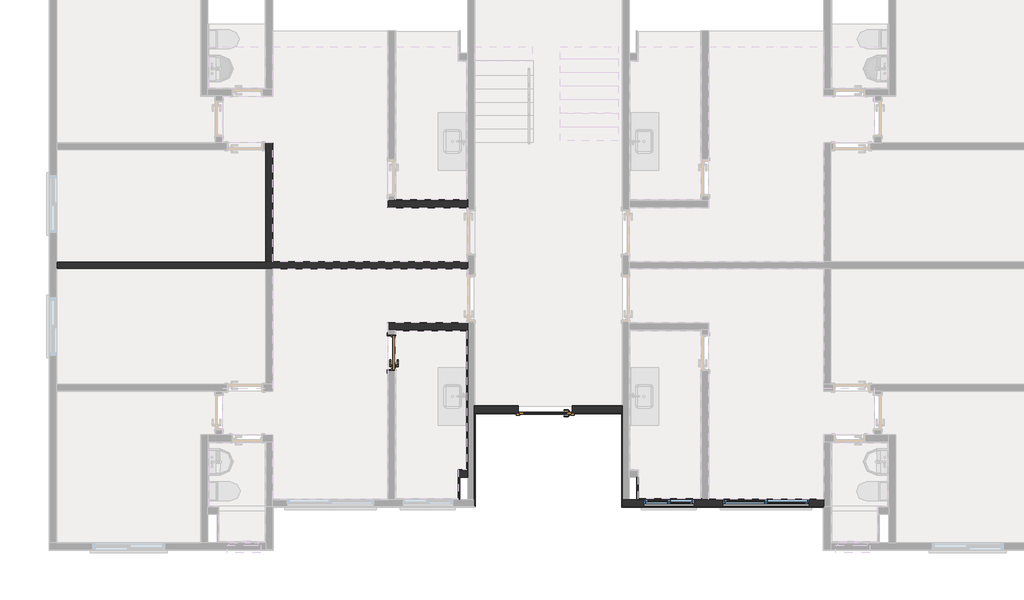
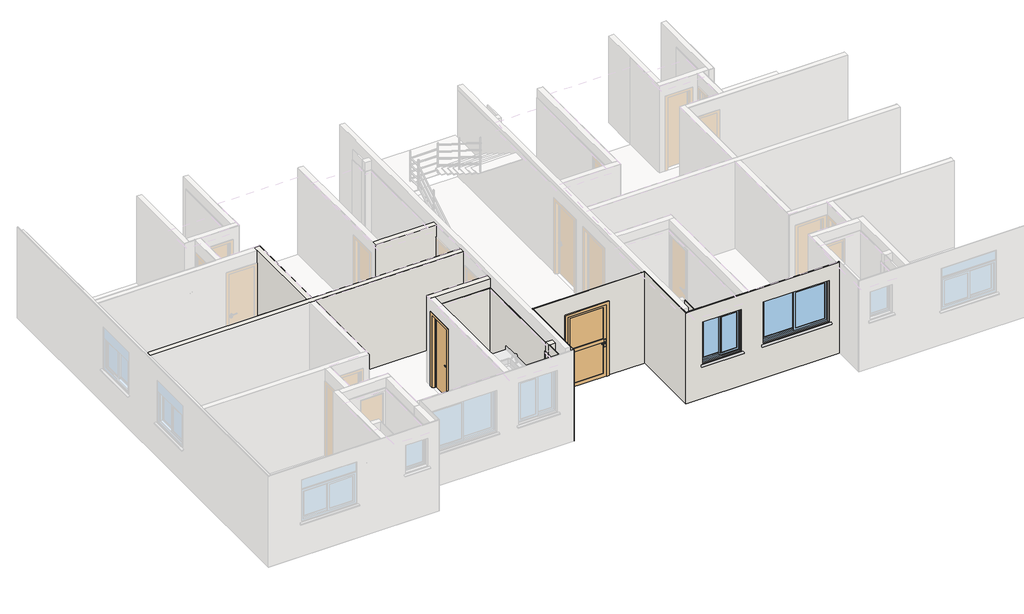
# One storey, part 3 of 11: 29 walls, 2 doors, 2 windows.
"""IFC4 building model written with IfcOpenShell, lengths in millimetres."""

from ifc_helpers import new_model, si_unit, frame, origin, origin_with_axes, place, context, project, spatial, polyline, outline, extrude, faceted_brep, transform, mapped, element, save
from components import porta_de_entrada_torre_110x210_d7ea5157, porta_de_madeira_interna_70_x_210_porta_de_madeira_interna_f307109d, window_105x120_428ac20c, window_180x120_e659ab7e

model = new_model("IFC4")

# Units and contexts
model_context = context("Model", 3, world=origin())
ifc_project = project(units=[si_unit("LENGTHUNIT", "METRE", prefix="MILLI")], contexts=[model_context])

# Site, building, storey
site = spatial("IfcSite", under=ifc_project)
building = spatial("IfcBuilding", under=site)
storey = spatial("IfcBuildingStorey", under=building, Name="Térreo", Elevation=0.0)

# Doors
placement = place(None, origin())
porta_de_entrada_torre_110x210_shape = porta_de_entrada_torre_110x210_d7ea5157(model_context)
element("IfcDoor", 1, ObjectType="Porta de Entrada Torre : 110x210", at=placement, inside=storey, context=model_context, shape_type="MappedRepresentation", body=[
    mapped(porta_de_entrada_torre_110x210_shape, transform((10345.9990083, 3322.00443, 0.0), x_axis=(-1.0, 0.0, 0.0), y_axis=(0.0, -1.0, 0.0), z_axis=(0.0, 0.0, 1.0))),
])
porta_de_madeira_interna_70_x_210_porta_de_madeira_interna_shape = porta_de_madeira_interna_70_x_210_porta_de_madeira_interna_f307109d(model_context)
element("IfcDoor", 2, ObjectType="Porta de Madeira Interna 70 x 210 : Porta de Madeira Interna 70 x 210", at=placement, inside=storey, context=model_context, shape_type="MappedRepresentation", body=[
    mapped(porta_de_madeira_interna_70_x_210_porta_de_madeira_interna_shape, transform((7146.1736861, 4578.6603139, 0.0), x_axis=(0.0, 1.0, 0.0), y_axis=(-1.0, 0.0, 0.0), z_axis=(0.0, 0.0, 1.0))),
])

# Walls
element("IfcWall", 3, ObjectType="Alvenaria Estrutural", at=placement, inside=storey, context=model_context, shape_type="Brep", body=[
    faceted_brep([(169.9991825, 6330.0103139, 0.0), (175.9991825, 6330.0103139, 0.0), (4523.9996867, 6330.0103139, 0.0), (4529.9996867, 6330.0103139, 0.0), (4669.9996867, 6330.0103139, 0.0), (4675.9996867, 6330.0103139, 0.0), (8723.9963008, 6330.0103139, 0.0), (8729.9963008, 6330.0103139, 0.0), (8729.9963008, 6330.0103139, 2510.0), (8723.9963008, 6330.0103139, 2510.0), (4675.9996867, 6330.0103139, 2510.0), (4669.9996867, 6330.0103139, 2510.0), (4529.9996867, 6330.0103139, 2510.0), (4523.9996867, 6330.0103139, 2510.0), (175.9991825, 6330.0103139, 2510.0), (169.9991825, 6330.0103139, 2510.0), (169.9991825, 6470.0103139, 0.0), (169.9991825, 6470.0103139, 2510.0), (175.9991825, 6470.0103139, 2510.0), (4523.9996867, 6470.0103139, 2510.0), (4529.9996867, 6470.0103139, 2510.0), (4669.9996867, 6470.0103139, 2510.0), (4675.9996867, 6470.0103139, 2510.0), (8723.9963008, 6470.0103139, 2510.0), (8729.9963008, 6470.0103139, 2510.0), (8729.9963008, 6470.0103139, 0.0), (8723.9963008, 6470.0103139, 0.0), (4675.9996867, 6470.0103139, 0.0), (4669.9996867, 6470.0103139, 0.0), (4529.9996867, 6470.0103139, 0.0), (4523.9996867, 6470.0103139, 0.0), (175.9991825, 6470.0103139, 0.0)], [[[0, 1, 2, 3, 4, 5, 6, 7, 8, 9, 10, 11, 12, 13, 14, 15]], [[16, 17, 18, 19, 20, 21, 22, 23, 24, 25, 26, 27, 28, 29, 30, 31]], [[1, 0, 16, 31, 30, 29, 28, 27, 26, 25, 7, 6, 5, 4, 3, 2]], [[9, 8, 24, 23, 22, 21, 20, 19, 18, 17, 15, 14, 13, 12, 11, 10]], [[8, 7, 25, 24]], [[0, 15, 17, 16]]]),
    faceted_brep([(175.9991825, 6330.0103139, 0.0), (169.9991825, 6330.0103139, 0.0), (169.9991825, 6470.0103139, 0.0), (175.9991825, 6470.0103139, 0.0), (4523.9996867, 6470.0103139, 0.0), (4529.9996867, 6470.0103139, 0.0), (4669.9996867, 6470.0103139, 0.0), (4675.9996867, 6470.0103139, 0.0), (8723.9963008, 6470.0103139, 0.0), (8729.9963008, 6470.0103139, 0.0), (8729.9963008, 6330.0103139, 0.0), (8723.9963008, 6330.0103139, 0.0), (4675.9996867, 6330.0103139, 0.0), (4669.9996867, 6330.0103139, 0.0), (4529.9996867, 6330.0103139, 0.0), (4523.9996867, 6330.0103139, 0.0), (169.9991825, 6470.0103139, 2510.0), (175.9991825, 6470.0103139, 2510.0), (4523.9996867, 6470.0103139, 2510.0), (4529.9996867, 6470.0103139, 2510.0), (4669.9996867, 6470.0103139, 2510.0), (4675.9996867, 6470.0103139, 2510.0), (8723.9963008, 6470.0103139, 2510.0), (8729.9963008, 6470.0103139, 2510.0), (8729.9963008, 6330.0103139, 2510.0), (8723.9963008, 6330.0103139, 2510.0), (4675.9996867, 6330.0103139, 2510.0), (4669.9996867, 6330.0103139, 2510.0), (4529.9996867, 6330.0103139, 2510.0), (4523.9996867, 6330.0103139, 2510.0), (175.9991825, 6330.0103139, 2510.0), (169.9991825, 6330.0103139, 2510.0)], [[[0, 1, 2, 3, 4, 5, 6, 7, 8, 9, 10, 11, 12, 13, 14, 15]], [[2, 16, 17, 18, 19, 20, 21, 22, 23, 9, 8, 7, 6, 5, 4, 3]], [[1, 0, 15, 14, 13, 12, 11, 10, 24, 25, 26, 27, 28, 29, 30, 31]], [[25, 24, 23, 22, 21, 20, 19, 18, 17, 16, 31, 30, 29, 28, 27, 26]], [[24, 10, 9, 23]], [[1, 31, 16, 2]]]),
])
element("IfcWall", 4, ObjectType="Alvenaria Estrutural", at=placement, inside=storey, context=model_context, shape_type="Brep", body=[
    faceted_brep([(4669.9996867, 6470.0103139, 0.0), (4669.9996867, 6476.0103139, 0.0), (4669.9996867, 8950.0244803, 0.0), (4669.9996867, 8950.0244803, 2510.0), (4669.9996867, 6476.0103139, 2510.0), (4669.9996867, 6470.0103139, 2510.0), (4529.9996867, 6470.0103139, 0.0), (4529.9996867, 6470.0103139, 2510.0), (4529.9996867, 6476.0103139, 2510.0), (4529.9996867, 8804.0244803, 2510.0), (4529.9996867, 8810.0244803, 2510.0), (4529.9996867, 8950.0244803, 2510.0), (4529.9996867, 8950.0244803, 0.0), (4529.9996867, 8810.0244803, 0.0), (4529.9996867, 8804.0244803, 0.0), (4529.9996867, 6476.0103139, 0.0)], [[[0, 1, 2, 3, 4, 5]], [[6, 7, 8, 9, 10, 11, 12, 13, 14, 15]], [[1, 0, 6, 15, 14, 13, 12, 2]], [[4, 3, 11, 10, 9, 8, 7, 5]], [[3, 2, 12, 11]], [[0, 5, 7, 6]]]),
    faceted_brep([(4669.9996867, 6476.0103139, 0.0), (4669.9996867, 6470.0103139, 0.0), (4529.9996867, 6470.0103139, 0.0), (4529.9996867, 6476.0103139, 0.0), (4529.9996867, 8804.0244803, 0.0), (4529.9996867, 8810.0244803, 0.0), (4529.9996867, 8950.0244803, 0.0), (4669.9996867, 8950.0244803, 0.0), (4669.9996867, 6476.0103139, 2510.0), (4669.9996867, 8950.0244803, 2510.0), (4529.9996867, 8950.0244803, 2510.0), (4529.9996867, 8810.0244803, 2510.0), (4529.9996867, 8804.0244803, 2510.0), (4529.9996867, 6476.0103139, 2510.0), (4529.9996867, 6470.0103139, 2510.0), (4669.9996867, 6470.0103139, 2510.0)], [[[0, 1, 2, 3, 4, 5, 6, 7]], [[8, 9, 10, 11, 12, 13, 14, 15]], [[1, 0, 7, 9, 8, 15]], [[2, 14, 13, 12, 11, 10, 6, 5, 4, 3]], [[9, 7, 6, 10]], [[1, 15, 14, 2]]]),
])
element("IfcWall", 5, ObjectType="Alvenaria Estrutural", at=placement, inside=storey, context=model_context, shape_type="Brep", body=[
    faceted_brep([(8869.9953936, 3330.00443, 2510.0), (8869.9953936, 3330.00443, 0.0), (8886.0600094, 3330.00443, 0.0), (9745.9990083, 3330.00443, 0.0), (9785.9990083, 3330.00443, 0.0), (9785.9990083, 3330.00443, 2110.0), (10905.9990083, 3330.00443, 2110.0), (10905.9990083, 3330.00443, 0.0), (10945.9990083, 3330.00443, 0.0), (11933.9956991, 3330.00443, 0.0), (11944.9956991, 3330.00443, 0.0), (11944.9956991, 3330.00443, 2510.0), (8869.9953936, 3470.00443, 0.0), (8869.9953936, 3470.00443, 2510.0), (8875.9991022, 3470.00443, 2510.0), (11943.9984066, 3470.00443, 2510.0), (11944.9956991, 3470.00443, 2510.0), (11944.9956991, 3470.00443, 0.0), (11943.9984066, 3470.00443, 0.0), (10905.9990083, 3470.00443, 0.0), (10905.9990083, 3470.00443, 2110.0), (9785.9990083, 3470.00443, 2110.0), (9785.9990083, 3470.00443, 0.0), (8875.9991022, 3470.00443, 0.0)], [[[0, 1, 2, 3, 4, 5, 6, 7, 8, 9, 10, 11]], [[12, 13, 14, 15, 16, 17, 18, 19, 20, 21, 22, 23]], [[2, 1, 12, 23, 22, 4, 3]], [[1, 0, 13, 12]], [[0, 11, 16, 15, 14, 13]], [[6, 5, 21, 20]], [[7, 6, 20, 19]], [[5, 4, 22, 21]], [[8, 7, 19, 18, 17, 10, 9]], [[11, 10, 17, 16]]]),
    faceted_brep([(8886.0600094, 3330.00443, 0.0), (8869.9953936, 3330.00443, 0.0), (8869.9953936, 3470.00443, 0.0), (8875.9991022, 3470.00443, 0.0), (9785.9990083, 3470.00443, 0.0), (9785.9990083, 3330.00443, 0.0), (9745.9990083, 3330.00443, 0.0), (8869.9953936, 3330.00443, 2510.0), (8869.9953936, 3470.00443, 2510.0), (11944.9956991, 3330.00443, 2510.0), (11944.9956991, 3470.00443, 2510.0), (11943.9984066, 3470.00443, 2510.0), (8875.9991022, 3470.00443, 2510.0), (10945.9990083, 3330.00443, 0.0), (10905.9990083, 3330.00443, 0.0), (10905.9990083, 3470.00443, 0.0), (11943.9984066, 3470.00443, 0.0), (11944.9956991, 3470.00443, 0.0), (11944.9956991, 3330.00443, 0.0), (11933.9956991, 3330.00443, 0.0), (9785.9990083, 3330.00443, 2110.0), (10905.9990083, 3330.00443, 2110.0), (10905.9990083, 3470.00443, 2110.0), (9785.9990083, 3470.00443, 2110.0)], [[[0, 1, 2, 3, 4, 5, 6]], [[1, 7, 8, 2]], [[7, 9, 10, 11, 12, 8]], [[13, 14, 15, 16, 17, 18, 19]], [[7, 1, 0, 6, 5, 20, 21, 14, 13, 19, 18, 9]], [[2, 8, 12, 11, 10, 17, 16, 15, 22, 23, 4, 3]], [[9, 18, 17, 10]], [[21, 20, 23, 22]], [[14, 21, 22, 15]], [[20, 5, 4, 23]]]),
])
element("IfcWall", 6, ObjectType="Alvenaria Estrutural", at=placement, inside=storey, context=model_context, shape_type="Brep", body=[
    faceted_brep([(8729.9963008, 2125.0132549, 0.0), (8709.9963008, 2125.0132549, 0.0), (8546.99631, 2125.0132549, 0.0), (8546.99631, 2125.0132549, 2510.0), (8729.9963008, 2125.0132549, 2510.0), (8729.9963008, 2125.0132549, 2250.0), (8729.9963008, 1985.0132549, 0.0), (8729.9963008, 1985.0132549, 2510.0), (8569.99631, 1985.0132549, 2510.0), (8546.99631, 1985.0132549, 2510.0), (8546.99631, 1985.0132549, 0.0), (8569.99631, 1985.0132549, 0.0)], [[[0, 1, 2, 3, 4, 5]], [[6, 7, 8, 9, 10, 11]], [[1, 0, 6, 11, 10, 2]], [[4, 3, 9, 8, 7]], [[3, 2, 10, 9]], [[5, 4, 7, 6, 0]]]),
    faceted_brep([(8729.9963008, 2125.0132549, 0.0), (8709.9963008, 2125.0132549, 0.0), (8546.99631, 2125.0132549, 0.0), (8546.99631, 2125.0132549, 2510.0), (8729.9963008, 2125.0132549, 2510.0), (8729.9963008, 2125.0132549, 2250.0), (8729.9963008, 1985.0132549, 0.0), (8569.99631, 1985.0132549, 0.0), (8546.99631, 1985.0132549, 0.0), (8546.99631, 1985.0132549, 2510.0), (8569.99631, 1985.0132549, 2510.0), (8729.9963008, 1985.0132549, 2510.0)], [[[0, 1, 2, 3, 4, 5]], [[1, 0, 6, 7, 8, 2]], [[4, 3, 9, 10, 11]], [[6, 11, 10, 9, 8, 7]], [[3, 2, 8, 9]], [[5, 4, 11, 6, 0]]]),
])
element("IfcWall", 7, ObjectType="Alvenaria Estrutural", at=placement, inside=storey, context=model_context, shape_type="Brep", body=[
    faceted_brep([(8729.9963008, 5193.6603139, 0.0), (8723.9963008, 5193.6603139, 0.0), (7072.9986861, 5193.6603139, 0.0), (7072.9986861, 5193.6603139, 2510.0), (8723.9963008, 5193.6603139, 2510.0), (8729.9963008, 5193.6603139, 2510.0), (8729.9963008, 5053.6603139, 0.0), (8729.9963008, 5053.6603139, 2250.0), (8729.9963008, 5053.6603139, 2510.0), (7212.9986861, 5053.6603139, 2510.0), (7072.9986861, 5053.6603139, 2510.0), (7072.9986861, 5053.6603139, 0.0), (7212.9986861, 5053.6603139, 0.0), (7233.0017324, 5053.6603139, 0.0), (8709.9963008, 5053.6603139, 0.0)], [[[0, 1, 2, 3, 4, 5]], [[6, 7, 8, 9, 10, 11, 12, 13, 14]], [[1, 0, 6, 14, 13, 12, 11, 2]], [[4, 3, 10, 9, 8, 5]], [[3, 2, 11, 10]], [[0, 5, 8, 7, 6]]]),
])
element("IfcWall", 8, ObjectType="Alvenaria Estrutural", at=placement, inside=storey, context=model_context, shape_type="Brep", body=[
    faceted_brep([(8729.9963008, 7746.3603139, 0.0), (8709.9963008, 7746.3603139, 0.0), (7233.0017324, 7746.3603139, 0.0), (7212.9986861, 7746.3603139, 0.0), (7072.9986861, 7746.3603139, 0.0), (7072.9986861, 7746.3603139, 2510.0), (7212.9986861, 7746.3603139, 2510.0), (8729.9963008, 7746.3603139, 2510.0), (8729.9963008, 7746.3603139, 2250.0), (8729.9963008, 7606.3603139, 0.0), (8729.9963008, 7606.3603139, 2510.0), (8723.9963008, 7606.3603139, 2510.0), (7072.9986861, 7606.3603139, 2510.0), (7072.9986861, 7606.3603139, 0.0), (8723.9963008, 7606.3603139, 0.0)], [[[0, 1, 2, 3, 4, 5, 6, 7, 8]], [[9, 10, 11, 12, 13, 14]], [[1, 0, 9, 14, 13, 4, 3, 2]], [[6, 5, 12, 11, 10, 7]], [[5, 4, 13, 12]], [[8, 7, 10, 9, 0]]]),
])
element("IfcWall", 9, ObjectType="Alvenaria Estrutural", at=placement, inside=storey, context=model_context, shape_type="Brep", body=[
    faceted_brep([(16149.9956991, 1519.9983274, 10.0), (16143.9956991, 1519.9983274, 10.0), (11949.9956991, 1519.9983274, 10.0), (11949.9956991, 1519.9983274, 2520.0), (16149.9956991, 1519.9983274, 2520.0), (16149.9956991, 1519.9983274, 2510.0), (12394.9954974, 1519.9983274, 2200.0), (12394.9954974, 1519.9983274, 1000.0), (13444.9954974, 1519.9983274, 1000.0), (13444.9954974, 1519.9983274, 2200.0), (14044.9954574, 1519.9983274, 2200.0), (14044.9954574, 1519.9983274, 1000.0), (15844.9954574, 1519.9983274, 1000.0), (15844.9954574, 1519.9983274, 2200.0), (11949.9956991, 1379.9983274, 10.0), (16133.9960602, 1379.9983274, 10.0), (16149.9956991, 1379.9983274, 10.0), (16149.9956991, 1379.9983274, 2520.0), (11949.9956991, 1379.9983274, 2520.0), (12394.9954974, 1379.9983274, 1000.0), (12394.9954974, 1379.9983274, 2200.0), (13444.9954974, 1379.9983274, 2200.0), (13444.9954974, 1379.9983274, 1000.0), (13494.9954974, 1379.9983274, 1000.0), (13494.9954974, 1379.9983274, 951.3083694), (12344.9954974, 1379.9983274, 951.3083694), (12344.9954974, 1379.9983274, 1000.0), (15894.9954574, 1379.9983274, 1000.0), (15894.9954574, 1379.9983274, 951.3083694), (13994.9954574, 1379.9983274, 951.3083694), (13994.9954574, 1379.9983274, 1000.0), (14044.9954574, 1379.9983274, 1000.0), (14044.9954574, 1379.9983274, 2200.0), (15844.9954574, 1379.9983274, 2200.0), (15844.9954574, 1379.9983274, 1000.0), (16149.9956991, 1449.9983274, 10.0), (12344.9954974, 1477.4983274, 972.0326341), (12344.9954974, 1477.4983274, 1000.0), (13494.9954974, 1477.4983274, 1000.0), (13494.9954974, 1477.4983274, 972.0326341), (13444.9954974, 1477.4983274, 1000.0), (12394.9954974, 1477.4983274, 1000.0), (15894.9954574, 1477.4983274, 1000.0), (15894.9954574, 1477.4983274, 972.0326341), (13994.9954574, 1477.4983274, 972.0326341), (13994.9954574, 1477.4983274, 1000.0), (15844.9954574, 1477.4983274, 1000.0), (14044.9954574, 1477.4983274, 1000.0)], [[[0, 1, 2, 3, 4, 5], [6, 7, 8, 9], [10, 11, 12, 13]], [[14, 15, 16, 17, 18], [19, 20, 21, 22, 23, 24, 25, 26], [27, 28, 29, 30, 31, 32, 33, 34]], [[1, 0, 35, 16, 15, 14, 2]], [[3, 2, 14, 18]], [[4, 3, 18, 17]], [[5, 4, 17, 16, 35, 0]], [[26, 25, 36, 37]], [[24, 23, 38, 39]], [[37, 36, 39, 38, 40, 41]], [[19, 26, 37, 41]], [[25, 24, 39, 36]], [[7, 6, 20, 19, 41]], [[6, 9, 21, 20]], [[9, 8, 40, 22, 21]], [[8, 7, 41, 40]], [[28, 27, 42, 43]], [[30, 29, 44, 45]], [[43, 42, 46, 47, 45, 44]], [[27, 34, 46, 42]], [[29, 28, 43, 44]], [[11, 10, 32, 31, 47]], [[10, 13, 33, 32]], [[13, 12, 46, 34, 33]], [[12, 11, 47, 46]], [[31, 30, 45, 47]], [[23, 22, 40, 38]]]),
    faceted_brep([(11949.9956991, 1519.9983274, 2520.0), (11949.9956991, 1519.9983274, 10.0), (11949.9956991, 1379.9983274, 10.0), (11949.9956991, 1379.9983274, 2520.0), (16149.9956991, 1519.9983274, 2520.0), (16149.9956991, 1379.9983274, 2520.0), (16149.9956991, 1519.9983274, 2510.0), (16149.9956991, 1379.9983274, 10.0), (16149.9956991, 1449.9983274, 10.0), (16149.9956991, 1519.9983274, 10.0), (12344.9954974, 1379.9983274, 1000.0), (12344.9954974, 1379.9983274, 951.3083694), (12344.9954974, 1477.4983274, 972.0326341), (12344.9954974, 1477.4983274, 1000.0), (13494.9954974, 1379.9983274, 951.3083694), (13494.9954974, 1379.9983274, 1000.0), (13494.9954974, 1477.4983274, 1000.0), (13494.9954974, 1477.4983274, 972.0326341), (13444.9954974, 1477.4983274, 1000.0), (12394.9954974, 1477.4983274, 1000.0), (12394.9954974, 1379.9983274, 1000.0), (12394.9954974, 1519.9983274, 1000.0), (12394.9954974, 1519.9983274, 2200.0), (12394.9954974, 1379.9983274, 2200.0), (13444.9954974, 1519.9983274, 2200.0), (13444.9954974, 1379.9983274, 2200.0), (13444.9954974, 1519.9983274, 1000.0), (13444.9954974, 1379.9983274, 1000.0), (16133.9960602, 1379.9983274, 10.0), (15894.9954574, 1379.9983274, 1000.0), (15894.9954574, 1379.9983274, 951.3083694), (13994.9954574, 1379.9983274, 951.3083694), (13994.9954574, 1379.9983274, 1000.0), (14044.9954574, 1379.9983274, 1000.0), (14044.9954574, 1379.9983274, 2200.0), (15844.9954574, 1379.9983274, 2200.0), (15844.9954574, 1379.9983274, 1000.0), (16143.9956991, 1519.9983274, 10.0), (14044.9954574, 1519.9983274, 2200.0), (14044.9954574, 1519.9983274, 1000.0), (15844.9954574, 1519.9983274, 1000.0), (15844.9954574, 1519.9983274, 2200.0), (15894.9954574, 1477.4983274, 1000.0), (15894.9954574, 1477.4983274, 972.0326341), (13994.9954574, 1477.4983274, 972.0326341), (13994.9954574, 1477.4983274, 1000.0), (15844.9954574, 1477.4983274, 1000.0), (14044.9954574, 1477.4983274, 1000.0)], [[[0, 1, 2, 3]], [[4, 0, 3, 5]], [[6, 4, 5, 7, 8, 9]], [[10, 11, 12, 13]], [[14, 15, 16, 17]], [[13, 12, 17, 16, 18, 19]], [[20, 10, 13, 19]], [[11, 14, 17, 12]], [[21, 22, 23, 20, 19]], [[22, 24, 25, 23]], [[24, 26, 18, 27, 25]], [[26, 21, 19, 18]], [[15, 27, 18, 16]], [[7, 5, 3, 2, 28], [29, 30, 31, 32, 33, 34, 35, 36], [20, 23, 25, 27, 15, 14, 11, 10]], [[1, 0, 4, 6, 9, 37], [22, 21, 26, 24], [38, 39, 40, 41]], [[30, 29, 42, 43]], [[32, 31, 44, 45]], [[43, 42, 46, 47, 45, 44]], [[29, 36, 46, 42]], [[31, 30, 43, 44]], [[39, 38, 34, 33, 47]], [[38, 41, 35, 34]], [[41, 40, 46, 36, 35]], [[40, 39, 47, 46]], [[33, 32, 45, 47]], [[37, 9, 8, 7, 28, 2, 1]]]),
])
element("IfcWall", 10, ObjectType="Azulejo", at=placement, inside=storey, context=model_context, shape_type="SweptSolid", body=[
    extrude(outline(polyline([(8729.9963008, 5033.6603139), (7212.9986861, 5033.6603139), (7212.9986861, 5043.6603139), (8729.9963008, 5043.6603139), (8729.9963008, 5033.6603139)])), origin_with_axes(), (0.0, 0.0, 1.0), 2250.0),
    extrude(outline(polyline([(7212.9986861, 5053.6603139), (8729.9963008, 5053.6603139), (8729.9963008, 5043.6603139), (7212.9986861, 5043.6603139), (7212.9986861, 5053.6603139)])), origin_with_axes(), (0.0, 0.0, 1.0), 2250.0),
])
element("IfcWall", 11, ObjectType="Azulejo", at=placement, inside=storey, context=model_context, shape_type="SweptSolid", body=[
    extrude(outline(polyline([(8709.9963008, 2125.0132549), (8709.9963008, 5053.6603139), (8719.9963008, 5053.6603139), (8719.9963008, 2125.0132549), (8709.9963008, 2125.0132549)])), origin_with_axes(), (0.0, 0.0, 1.0), 2250.0),
    extrude(outline(polyline([(8729.9963008, 5053.6603139), (8729.9963008, 2125.0132549), (8719.9963008, 2125.0132549), (8719.9963008, 5053.6603139), (8729.9963008, 5053.6603139)])), origin_with_axes(), (0.0, 0.0, 1.0), 2250.0),
])
element("IfcWall", 12, ObjectType="Azulejo", at=placement, inside=storey, context=model_context, shape_type="SolidModel", body=[
    extrude(outline(polyline([(8536.99631, 2145.0132549), (8729.9963008, 2145.0132549), (8729.9963008, 2135.0132549), (8536.99631, 2135.0132549), (8536.99631, 2145.0132549)])), origin_with_axes(), (0.0, 0.0, 1.0), 2250.0),
    faceted_brep([(8729.9963008, 2135.0132549, 0.0), (8546.99631, 2135.0132549, 0.0), (8546.99631, 2135.0132549, 2250.0), (8729.9963008, 2135.0132549, 2250.0), (8546.99631, 2125.0132549, 0.0), (8556.99631, 2125.0132549, 0.0), (8729.9963008, 2125.0132549, 0.0), (8729.9963008, 2125.0132549, 2250.0), (8556.99631, 2125.0132549, 2250.0), (8546.99631, 2125.0132549, 2250.0)], [[[0, 1, 2, 3]], [[4, 5, 6, 7, 8, 9]], [[5, 4, 1, 0, 6]], [[8, 7, 3, 2, 9]], [[7, 6, 0, 3]], [[4, 9, 2, 1]]]),
])
element("IfcWall", 13, ObjectType="Azulejo", at=placement, inside=storey, context=model_context, shape_type="SweptSolid", body=[
    extrude(outline(polyline([(8536.99631, 1985.0132549), (8536.99631, 2135.0132549), (8546.99631, 2135.0132549), (8546.99631, 1985.0132549), (8536.99631, 1985.0132549)])), origin_with_axes(), (0.0, 0.0, 1.0), 2250.0),
    extrude(outline(polyline([(8556.99631, 2125.0132549), (8556.99631, 1985.0132549), (8546.99631, 1985.0132549), (8546.99631, 2125.0132549), (8556.99631, 2125.0132549)])), origin_with_axes(), (0.0, 0.0, 1.0), 2250.0),
])
element("IfcWall", 14, ObjectType="Azulejo", at=placement, inside=storey, context=model_context, shape_type="SweptSolid", body=[
    extrude(outline(polyline([(7212.9986861, 7766.3603139), (8729.9963008, 7766.3603139), (8729.9963008, 7756.3603139), (7212.9986861, 7756.3603139), (7212.9986861, 7766.3603139)])), origin_with_axes(), (0.0, 0.0, 1.0), 2250.0),
    extrude(outline(polyline([(8729.9963008, 7746.3603139), (7212.9986861, 7746.3603139), (7212.9986861, 7756.3603139), (8729.9963008, 7756.3603139), (8729.9963008, 7746.3603139)])), origin_with_axes(), (0.0, 0.0, 1.0), 2250.0),
])
element("IfcWall", 15, ObjectType="Azulejo", at=placement, inside=storey, context=model_context, shape_type="SolidModel", body=[
    faceted_brep([(12282.9983974, 1539.9983274, 0.0), (13606.9960213, 1539.9983274, 0.0), (13606.9960213, 1529.9983274, 0.0), (12272.9983974, 1529.9983274, 0.0), (12272.9983974, 1539.9983274, 0.0), (12282.9983974, 1539.9983274, 2250.0), (12272.9983974, 1539.9983274, 2250.0), (12272.9983974, 1529.9983274, 2250.0), (13606.9960213, 1529.9983274, 2250.0), (13606.9960213, 1539.9983274, 2250.0), (12394.9954974, 1539.9983274, 1000.0), (12394.9954974, 1539.9983274, 2200.0), (12394.9954974, 1529.9983274, 2200.0), (12394.9954974, 1529.9983274, 1000.0), (13444.9954974, 1539.9983274, 2200.0), (13444.9954974, 1529.9983274, 2200.0), (13444.9954974, 1539.9983274, 1000.0), (13444.9954974, 1529.9983274, 1000.0)], [[[0, 1, 2, 3, 4]], [[5, 6, 7, 8, 9]], [[10, 11, 12, 13]], [[11, 14, 15, 12]], [[14, 16, 17, 15]], [[16, 10, 13, 17]], [[1, 9, 8, 2]], [[6, 4, 3, 7]], [[3, 2, 8, 7], [13, 12, 15, 17]], [[1, 0, 4, 6, 5, 9], [10, 16, 14, 11]]]),
    extrude(outline(polyline([(0.0, 13606.9960213), (2250.0, 13606.9960213), (2250.0, 12272.9983974), (0.0, 12272.9983974), (0.0, 13606.9960213)]), holes=[polyline([(1000.0, 12394.9954974), (2200.0, 12394.9954974), (2200.0, 13444.9954974), (1000.0, 13444.9954974), (1000.0, 12394.9954974)])]), frame((0.0, 1519.9983274, 0.0), z_axis=(0.0, 1.0, 0.0), x_axis=(0.0, 0.0, 1.0)), (0.0, 0.0, 1.0), 10.0),
])
element("IfcWall", 16, ObjectType="Azulejo - Shaft", at=placement, inside=storey, context=model_context, shape_type="SweptSolid", body=[
    extrude(outline(polyline([(8546.99631, 1985.0132549), (8546.99631, 1539.9983274), (8536.99631, 1539.9983274), (8536.99631, 1985.0132549), (8546.99631, 1985.0132549)])), origin_with_axes(), (0.0, 0.0, 1.0), 2250.0),
])
element("IfcWall", 17, ObjectType="Azulejo - Shaft", at=placement, inside=storey, context=model_context, shape_type="SweptSolid", body=[
    extrude(outline(polyline([(12282.9983974, 1985.0132549), (12282.9983974, 1539.9983274), (12272.9983974, 1539.9983274), (12272.9983974, 1985.0132549), (12282.9983974, 1985.0132549)])), origin_with_axes(), (0.0, 0.0, 1.0), 2250.0),
])
element("IfcWall", 18, ObjectType="Gesso Liso + Pintura", at=placement, inside=storey, context=model_context, shape_type="SweptSolid", body=[
    extrude(outline(polyline([(4523.9996867, 6470.0103139), (4523.9996867, 8810.0244803), (4524.9996867, 8810.0244803), (4524.9996867, 6470.0103139), (4523.9996867, 6470.0103139)])), origin_with_axes(), (0.0, 0.0, 1.0), 2510.0),
    extrude(outline(polyline([(4529.9996867, 8810.0244803), (4529.9996867, 6470.0103139), (4524.9996867, 6470.0103139), (4524.9996867, 8810.0244803), (4529.9996867, 8810.0244803)])), origin_with_axes(), (0.0, 0.0, 1.0), 2510.0),
])
element("IfcWall", 19, ObjectType="Gesso Liso + Pintura", at=placement, inside=storey, context=model_context, shape_type="SweptSolid", body=[
    extrude(outline(polyline([(8729.9963008, 6324.0103139), (4669.9996867, 6324.0103139), (4669.9996867, 6325.0103139), (8729.9963008, 6325.0103139), (8729.9963008, 6324.0103139)])), origin_with_axes(), (0.0, 0.0, 1.0), 2510.0),
    extrude(outline(polyline([(4669.9996867, 6330.0103139), (8729.9963008, 6330.0103139), (8729.9963008, 6325.0103139), (4669.9996867, 6325.0103139), (4669.9996867, 6330.0103139)])), origin_with_axes(), (0.0, 0.0, 1.0), 2510.0),
])
element("IfcWall", 20, ObjectType="Gesso Liso + Pintura", at=placement, inside=storey, context=model_context, shape_type="SolidModel", body=[
    extrude(outline(polyline([(7066.9986861, 5199.6603139), (8723.9963008, 5199.6603139), (8723.9963008, 5198.6603139), (7066.9986861, 5198.6603139), (7066.9986861, 5199.6603139)])), origin_with_axes(), (0.0, 0.0, 1.0), 2510.0),
    faceted_brep([(8724.9963008, 5198.6603139, 0.0), (7067.9986861, 5198.6603139, 0.0), (7067.9986861, 5198.6603139, 2510.0), (8724.9963008, 5198.6603139, 2510.0), (7067.9986861, 5193.6603139, 0.0), (7072.9986861, 5193.6603139, 0.0), (8724.9963008, 5193.6603139, 0.0), (8724.9963008, 5193.6603139, 2510.0), (7072.9986861, 5193.6603139, 2510.0), (7067.9986861, 5193.6603139, 2510.0)], [[[0, 1, 2, 3]], [[4, 5, 6, 7, 8, 9]], [[5, 4, 1, 0, 6]], [[8, 7, 3, 2, 9]], [[7, 6, 0, 3]], [[4, 9, 2, 1]]]),
])
element("IfcWall", 21, ObjectType="Gesso Liso + Pintura", at=placement, inside=storey, context=model_context, shape_type="SolidModel", body=[
    extrude(outline(polyline([(4675.9996867, 8956.0244803), (4675.9996867, 6470.0103139), (4674.9996867, 6470.0103139), (4674.9996867, 8956.0244803), (4675.9996867, 8956.0244803)])), origin_with_axes(), (0.0, 0.0, 1.0), 2510.0),
    faceted_brep([(4674.9996867, 6470.0103139, 0.0), (4674.9996867, 8955.0244803, 0.0), (4674.9996867, 8955.0244803, 2510.0), (4674.9996867, 6470.0103139, 2510.0), (4669.9996867, 8955.0244803, 0.0), (4669.9996867, 8950.0244803, 0.0), (4669.9996867, 6470.0103139, 0.0), (4669.9996867, 6470.0103139, 2510.0), (4669.9996867, 8950.0244803, 2510.0), (4669.9996867, 8955.0244803, 2510.0)], [[[0, 1, 2, 3]], [[4, 5, 6, 7, 8, 9]], [[5, 4, 1, 0, 6]], [[8, 7, 3, 2, 9]], [[7, 6, 0, 3]], [[4, 9, 2, 1]]]),
])
element("IfcWall", 22, ObjectType="Gesso Liso + Pintura", at=placement, inside=storey, context=model_context, shape_type="SweptSolid", body=[
    extrude(outline(polyline([(4669.9996867, 6476.0103139), (8729.9963008, 6476.0103139), (8729.9963008, 6475.0103139), (4669.9996867, 6475.0103139), (4669.9996867, 6476.0103139)])), origin_with_axes(), (0.0, 0.0, 1.0), 2510.0),
    extrude(outline(polyline([(8729.9963008, 6470.0103139), (4669.9996867, 6470.0103139), (4669.9996867, 6475.0103139), (8729.9963008, 6475.0103139), (8729.9963008, 6470.0103139)])), origin_with_axes(), (0.0, 0.0, 1.0), 2510.0),
])
element("IfcWall", 23, ObjectType="Gesso Liso + Pintura", at=placement, inside=storey, context=model_context, shape_type="SolidModel", body=[
    extrude(outline(polyline([(8723.9963008, 7600.3603139), (7066.9986861, 7600.3603139), (7066.9986861, 7601.3603139), (8723.9963008, 7601.3603139), (8723.9963008, 7600.3603139)])), origin_with_axes(), (0.0, 0.0, 1.0), 2510.0),
    faceted_brep([(7067.9986861, 7601.3603139, 0.0), (8724.9963008, 7601.3603139, 0.0), (8724.9963008, 7601.3603139, 2510.0), (7067.9986861, 7601.3603139, 2510.0), (7067.9986861, 7606.3603139, 0.0), (7067.9986861, 7606.3603139, 2510.0), (7072.9986861, 7606.3603139, 2510.0), (8724.9963008, 7606.3603139, 2510.0), (8724.9963008, 7606.3603139, 0.0), (7072.9986861, 7606.3603139, 0.0)], [[[0, 1, 2, 3]], [[4, 5, 6, 7, 8, 9]], [[9, 8, 1, 0, 4]], [[6, 5, 3, 2, 7]], [[8, 7, 2, 1]], [[5, 4, 0, 3]]]),
])
element("IfcWall", 24, ObjectType="Gesso Liso + Pintura", at=placement, inside=storey, context=model_context, shape_type="SolidModel", body=[
    extrude(outline(polyline([(0.0, 13746.9960213), (0.0, 16149.9956991), (2510.0, 16149.9956991), (2510.0, 13746.9960213), (0.0, 13746.9960213)]), holes=[polyline([(1000.0, 14044.9954574), (2200.0, 14044.9954574), (2200.0, 15844.9954574), (1000.0, 15844.9954574), (1000.0, 14044.9954574)])]), frame((0.0, 1524.9983274, 0.0), z_axis=(0.0, 1.0, 0.0), x_axis=(0.0, 0.0, 1.0)), (0.0, 0.0, 1.0), 1.0),
    faceted_brep([(16149.9956991, 1524.9983274, 0.0), (13746.9960213, 1524.9983274, 0.0), (13746.9960213, 1524.9983274, 2510.0), (16149.9956991, 1524.9983274, 2510.0), (14044.9954574, 1524.9983274, 2200.0), (14044.9954574, 1524.9983274, 1000.0), (15844.9954574, 1524.9983274, 1000.0), (15844.9954574, 1524.9983274, 2200.0), (13746.9960213, 1519.9983274, 0.0), (16149.9956991, 1519.9983274, 0.0), (16149.9956991, 1519.9983274, 10.0), (16149.9956991, 1519.9983274, 2510.0), (13746.9960213, 1519.9983274, 2510.0), (14044.9954574, 1519.9983274, 1000.0), (14044.9954574, 1519.9983274, 2200.0), (15844.9954574, 1519.9983274, 2200.0), (15844.9954574, 1519.9983274, 1000.0)], [[[0, 1, 2, 3], [4, 5, 6, 7]], [[8, 9, 10, 11, 12], [13, 14, 15, 16]], [[9, 8, 1, 0]], [[12, 11, 3, 2]], [[14, 13, 5, 4]], [[15, 14, 4, 7]], [[16, 15, 7, 6]], [[13, 16, 6, 5]], [[8, 12, 2, 1]], [[10, 9, 0, 3, 11]]]),
])
element("IfcWall", 25, ObjectType="Gesso Liso + Pintura", at=placement, inside=storey, context=model_context, shape_type="SweptSolid", body=[
    extrude(outline(polyline([(0.0, 10905.9990083), (0.0, 11943.9984066), (2510.0, 11943.9984066), (2510.0, 8869.9963008), (0.0, 8869.9963008), (0.0, 9785.9990083), (2110.0, 9785.9990083), (2110.0, 10905.9990083), (0.0, 10905.9990083)])), frame((0.0, 3473.9995833, 0.0), z_axis=(0.0, 1.0, 0.0), x_axis=(0.0, 0.0, 1.0)), (0.0, 0.0, 1.0), 1.0),
    extrude(outline(polyline([(0.0, 10905.9990083), (0.0, 11944.9984066), (2510.0, 11944.9984066), (2510.0, 8869.9963008), (0.0, 8869.9963008), (0.0, 9785.9990083), (2110.0, 9785.9990083), (2110.0, 10905.9990083), (0.0, 10905.9990083)])), frame((0.0, 3470.00443, 0.0), z_axis=(0.0, 1.0, 0.0), x_axis=(0.0, 0.0, 1.0)), (0.0, 0.0, 1.0), 3.9951533),
])
element("IfcWall", 26, ObjectType="Reboco + Pintura Externa", at=placement, inside=storey, context=model_context, shape_type="Brep", body=[
    faceted_brep([(8885.0600094, 1364.9983274, 0.0), (8885.0600094, 1364.9983274, 2510.0), (8885.0600094, 1364.9983274, 2630.0), (8885.0600094, 3315.00443, 2630.0), (8885.0600094, 3315.00443, 2510.0), (8885.0600094, 3315.00443, 0.0), (8886.0600094, 3314.00443, 0.0), (8886.0600094, 1364.9983274, 0.0), (8886.0600094, 3315.00443, 0.0), (8886.0600094, 3315.00443, 2510.0), (8886.0600094, 3315.00443, 2630.0), (8886.0600094, 3314.00443, 2630.0), (8886.0600094, 1364.9983274, 2630.0), (8886.0600094, 1364.9983274, 2510.0)], [[[0, 1, 2, 3, 4, 5]], [[6, 7, 0, 5, 8]], [[7, 6, 8, 9, 10, 11, 12, 13]], [[7, 13, 12, 2, 1, 0]], [[5, 4, 3, 10, 9, 8]], [[3, 2, 12, 11, 10]]]),
    faceted_brep([(8875.0600094, 3330.00443, 0.0), (8875.0600094, 1379.9983274, 0.0), (8870.0600094, 1379.9983274, 0.0), (8870.0600094, 3330.00443, 0.0), (8875.0600094, 3330.00443, 2510.0), (8870.0600094, 3330.00443, 2510.0), (8870.0600094, 3330.00443, 2630.0), (8875.0600094, 3330.00443, 2630.0), (8875.0600094, 1379.9983274, 2510.0), (8875.0600094, 1379.9983274, 2630.0), (8870.0600094, 1379.9983274, 2630.0), (8870.0600094, 1379.9983274, 2510.0)], [[[0, 1, 2, 3]], [[4, 0, 3, 5, 6, 7]], [[1, 8, 9, 10, 11, 2]], [[1, 0, 4, 7, 9, 8]], [[3, 2, 11, 10, 6, 5]], [[9, 7, 6, 10]]]),
    faceted_brep([(8885.0600094, 1374.9983274, 0.0), (8885.0600094, 3330.00443, 0.0), (8885.0600094, 3330.00443, 2510.0), (8885.0600094, 3330.00443, 2630.0), (8885.0600094, 1374.9983274, 2630.0), (8885.0600094, 1374.9983274, 2510.0), (8875.0600094, 1374.9983274, 0.0), (8875.0600094, 3330.00443, 0.0), (8875.0600094, 3330.00443, 2510.0), (8875.0600094, 3330.00443, 2630.0), (8875.0600094, 1374.9983274, 2510.0), (8875.0600094, 1374.9983274, 2630.0)], [[[0, 1, 2, 3, 4, 5]], [[1, 0, 6, 7]], [[2, 1, 7, 8, 9, 3]], [[7, 6, 10, 11, 9, 8]], [[6, 0, 5, 4, 11, 10]], [[4, 3, 9, 11]]]),
])
element("IfcWall", 27, ObjectType="Reboco + Pintura Externa", at=placement, inside=storey, context=model_context, shape_type="SweptSolid", body=[
    extrude(outline(polyline([(2630.0, 11949.9984066), (2630.0, 8886.0600094), (0.0, 8886.0600094), (0.0, 9745.9990083), (2150.0, 9745.9990083), (2150.0, 10945.9990083), (0.0, 10945.9990083), (0.0, 11949.9984066), (2630.0, 11949.9984066)])), frame((0.0, 3314.00443, 0.0), z_axis=(0.0, 1.0, 0.0), x_axis=(0.0, 0.0, 1.0)), (0.0, 0.0, 1.0), 1.0),
    extrude(outline(polyline([(0.0, 8885.0600094), (0.0, 9745.9990083), (2150.0, 9745.9990083), (2150.0, 10945.9990083), (0.0, 10945.9990083), (0.0, 11949.9984066), (2630.0, 11949.9984066), (2630.0, 8885.0600094), (0.0, 8885.0600094)])), frame((0.0, 3325.00443, 0.0), z_axis=(0.0, 1.0, 0.0), x_axis=(0.0, 0.0, 1.0)), (0.0, 0.0, 1.0), 5.0),
    extrude(outline(polyline([(0.0, 8885.0600094), (0.0, 9745.9990083), (2150.0, 9745.9990083), (2150.0, 10945.9990083), (0.0, 10945.9990083), (0.0, 11949.9984066), (2630.0, 11949.9984066), (2630.0, 8885.0600094), (0.0, 8885.0600094)])), frame((0.0, 3315.00443, 0.0), z_axis=(0.0, 1.0, 0.0), x_axis=(0.0, 0.0, 1.0)), (0.0, 0.0, 1.0), 10.0),
])
element("IfcWall", 28, ObjectType="Reboco + Pintura Externa", at=placement, inside=storey, context=model_context, shape_type="SolidModel", body=[
    extrude(outline(polyline([(0.0, 16133.9960602), (2630.0, 16133.9960602), (2630.0, 11933.9956991), (0.0, 11933.9956991), (0.0, 16133.9960602)]), holes=[polyline([(1000.0, 12394.9954974), (2200.0, 12394.9954974), (2200.0, 13444.9954974), (1000.0, 13444.9954974), (1000.0, 12394.9954974)]), polyline([(1000.0, 14044.9954574), (2200.0, 14044.9954574), (2200.0, 15844.9954574), (1000.0, 15844.9954574), (1000.0, 14044.9954574)])]), frame((0.0, 1363.9983274, 0.0), z_axis=(0.0, 1.0, 0.0), x_axis=(0.0, 0.0, 1.0)), (0.0, 0.0, 1.0), 1.0),
    faceted_brep([(11944.9956991, 1374.9983274, 0.0), (16134.9960602, 1374.9983274, 0.0), (16134.9960602, 1374.9983274, 2630.0), (11944.9956991, 1374.9983274, 2630.0), (14044.9954574, 1374.9983274, 1000.0), (14044.9954574, 1374.9983274, 2200.0), (15844.9954574, 1374.9983274, 2200.0), (15844.9954574, 1374.9983274, 1000.0), (12394.9954974, 1374.9983274, 1000.0), (12394.9954974, 1374.9983274, 2200.0), (13444.9954974, 1374.9983274, 2200.0), (13444.9954974, 1374.9983274, 1000.0), (11949.9956991, 1379.9983274, 0.0), (16134.9960602, 1379.9983274, 0.0), (11944.9956991, 1379.9983274, 0.0), (11949.9956991, 1379.9983274, 2630.0), (11944.9956991, 1379.9983274, 2630.0), (16134.9960602, 1379.9983274, 2630.0), (12394.9954974, 1379.9983274, 1000.0), (12394.9954974, 1379.9983274, 2200.0), (13444.9954974, 1379.9983274, 2200.0), (13444.9954974, 1379.9983274, 1000.0), (14044.9954574, 1379.9983274, 1000.0), (14044.9954574, 1379.9983274, 2200.0), (15844.9954574, 1379.9983274, 2200.0), (15844.9954574, 1379.9983274, 1000.0)], [[[0, 1, 2, 3], [4, 5, 6, 7], [8, 9, 10, 11]], [[12, 13, 1, 0, 14]], [[15, 16, 3, 2, 17]], [[18, 19, 9, 8]], [[19, 20, 10, 9]], [[20, 21, 11, 10]], [[21, 18, 8, 11]], [[22, 23, 5, 4]], [[23, 24, 6, 5]], [[24, 25, 7, 6]], [[25, 22, 4, 7]], [[17, 13, 12, 14, 16, 15], [18, 21, 20, 19], [22, 25, 24, 23]], [[17, 2, 1, 13]], [[16, 14, 0, 3]]]),
    extrude(outline(polyline([(0.0, 11934.9956991), (0.0, 16134.9960602), (2630.0, 16134.9960602), (2630.0, 11934.9956991), (0.0, 11934.9956991)]), holes=[polyline([(1000.0, 14044.9954574), (2200.0, 14044.9954574), (2200.0, 15844.9954574), (1000.0, 15844.9954574), (1000.0, 14044.9954574)]), polyline([(1000.0, 12394.9954974), (2200.0, 12394.9954974), (2200.0, 13444.9954974), (1000.0, 13444.9954974), (1000.0, 12394.9954974)])]), frame((0.0, 1364.9983274, 0.0), z_axis=(0.0, 1.0, 0.0), x_axis=(0.0, 0.0, 1.0)), (0.0, 0.0, 1.0), 10.0),
])
element("IfcWall", 29, ObjectType="Reboco + Pintura Externa", at=placement, inside=storey, context=model_context, shape_type="Brep", body=[
    faceted_brep([(11934.9956991, 3330.00443, 0.0), (11934.9956991, 1364.9983274, 0.0), (11933.9956991, 1364.9983274, 0.0), (11933.9956991, 3330.00443, 0.0), (11934.9956991, 3330.00443, 2510.0), (11933.9956991, 3330.00443, 2510.0), (11933.9956991, 3330.00443, 2630.0), (11934.9956991, 3330.00443, 2630.0), (11934.9956991, 1364.9983274, 2630.0), (11934.9956991, 1364.9983274, 2510.0), (11933.9956991, 1364.9983274, 2510.0), (11933.9956991, 1364.9983274, 2630.0)], [[[0, 1, 2, 3]], [[4, 0, 3, 5, 6, 7]], [[1, 0, 4, 7, 8, 9]], [[3, 2, 10, 11, 6, 5]], [[10, 2, 1, 9, 8, 11]], [[8, 7, 6, 11]]]),
    faceted_brep([(11949.9956991, 3470.00443, 2510.0), (11944.9956991, 3470.00443, 2510.0), (11944.9956991, 3330.00443, 2510.0), (11949.9956991, 3330.00443, 2510.0), (11944.9956991, 3470.00443, 0.0), (11944.9956991, 1379.9983274, 0.0), (11944.9956991, 1379.9983274, 2510.0), (11944.9956991, 1379.9983274, 2630.0), (11944.9956991, 3330.00443, 2630.0), (11949.9956991, 3470.00443, 0.0), (11949.9956991, 1379.9983274, 0.0), (11949.9956991, 1379.9983274, 2510.0), (11949.9956991, 1379.9983274, 2630.0), (11949.9956991, 3330.00443, 2630.0)], [[[0, 1, 2, 3]], [[4, 5, 6, 7, 8, 2, 1]], [[5, 4, 9, 10]], [[6, 5, 10, 11, 12, 7]], [[10, 9, 0, 3, 13, 12, 11]], [[0, 9, 4, 1]], [[2, 8, 13, 3]], [[8, 7, 12, 13]]]),
    faceted_brep([(11944.9956991, 1374.9983274, 0.0), (11944.9956991, 3330.00443, 0.0), (11944.9956991, 3330.00443, 2510.0), (11944.9956991, 3330.00443, 2630.0), (11944.9956991, 1374.9983274, 2630.0), (11944.9956991, 1374.9983274, 2510.0), (11934.9956991, 1374.9983274, 0.0), (11934.9956991, 3330.00443, 0.0), (11934.9956991, 3330.00443, 2510.0), (11934.9956991, 3330.00443, 2630.0), (11934.9956991, 1374.9983274, 2510.0), (11934.9956991, 1374.9983274, 2630.0)], [[[0, 1, 2, 3, 4, 5]], [[1, 0, 6, 7]], [[2, 1, 7, 8, 9, 3]], [[7, 6, 10, 11, 9, 8]], [[6, 0, 5, 4, 11, 10]], [[4, 3, 9, 11]]]),
])
element("IfcWall", 30, ObjectType="Shaft Drywall", at=placement, inside=storey, context=model_context, shape_type="Brep", body=[
    faceted_brep([(8546.99631, 1985.0132549, 0.0), (8546.99631, 1539.9983274, 0.0), (8546.99631, 1519.9983274, 0.0), (8546.99631, 1519.9983274, 2250.0), (8546.99631, 1519.9983274, 2510.0), (8546.99631, 1985.0132549, 2510.0), (8569.99631, 1985.0132549, 0.0), (8569.99631, 1985.0132549, 2510.0), (8569.99631, 1519.9983274, 2510.0), (8569.99631, 1519.9983274, 0.0)], [[[0, 1, 2, 3, 4, 5]], [[6, 7, 8, 9]], [[1, 0, 6, 9, 2]], [[3, 2, 9, 8, 4]], [[5, 4, 8, 7]], [[0, 5, 7, 6]]]),
    faceted_brep([(8569.99631, 1985.0132549, 0.0), (8569.99631, 1985.0132549, 2510.0), (8569.99631, 1519.9983274, 2510.0), (8569.99631, 1519.9983274, 0.0), (8546.99631, 1539.9983274, 0.0), (8546.99631, 1985.0132549, 0.0), (8546.99631, 1519.9983274, 0.0), (8546.99631, 1519.9983274, 2250.0), (8546.99631, 1519.9983274, 2510.0), (8546.99631, 1985.0132549, 2510.0)], [[[0, 1, 2, 3]], [[4, 5, 0, 3, 6]], [[7, 6, 3, 2, 8]], [[9, 8, 2, 1]], [[5, 4, 6, 7, 8, 9]], [[5, 9, 1, 0]]]),
])
element("IfcWall", 31, ObjectType="Shaft Drywall", at=placement, inside=storey, context=model_context, shape_type="Brep", body=[
    faceted_brep([(12249.9983974, 1985.0132549, 0.0), (12249.9983974, 1519.9983274, 0.0), (12249.9983974, 1519.9983274, 2510.0), (12249.9983974, 1985.0132549, 2510.0), (12272.9983974, 1985.0132549, 0.0), (12272.9983974, 1985.0132549, 2510.0), (12272.9983974, 1519.9983274, 2510.0), (12272.9983974, 1519.9983274, 2250.0), (12272.9983974, 1519.9983274, 0.0), (12272.9983974, 1539.9983274, 0.0)], [[[0, 1, 2, 3]], [[4, 5, 6, 7, 8, 9]], [[1, 0, 4, 9, 8]], [[2, 1, 8, 7, 6]], [[3, 2, 6, 5]], [[0, 3, 5, 4]]]),
    faceted_brep([(12272.9983974, 1985.0132549, 0.0), (12272.9983974, 1985.0132549, 2510.0), (12272.9983974, 1519.9983274, 2510.0), (12272.9983974, 1519.9983274, 2250.0), (12272.9983974, 1519.9983274, 0.0), (12272.9983974, 1539.9983274, 0.0), (12249.9983974, 1519.9983274, 0.0), (12249.9983974, 1985.0132549, 0.0), (12249.9983974, 1519.9983274, 2510.0), (12249.9983974, 1985.0132549, 2510.0)], [[[0, 1, 2, 3, 4, 5]], [[6, 7, 0, 5, 4]], [[8, 6, 4, 3, 2]], [[9, 8, 2, 1]], [[7, 6, 8, 9]], [[7, 9, 1, 0]]]),
])

# Windows
window_105x120_shape = window_105x120_428ac20c(model_context)
element("IfcWindow", 32, ObjectType="Janela de correr - 2 Painéis : 105x120", at=placement, inside=storey, context=model_context, shape_type="MappedRepresentation", body=[
    mapped(window_105x120_shape, transform((12919.9954974, 1449.9983274, 350.0), x_axis=(1.0, 0.0, 0.0), y_axis=(0.0, 1.0, 0.0), z_axis=(0.0, 0.0, 1.0))),
])
window_180x120_shape = window_180x120_e659ab7e(model_context)
element("IfcWindow", 33, ObjectType="Janela de correr - 2 Painéis : 180x120", at=placement, inside=storey, context=model_context, shape_type="MappedRepresentation", body=[
    mapped(window_180x120_shape, transform((14944.9954574, 1449.9983274, 350.0), x_axis=(1.0, 0.0, 0.0), y_axis=(0.0, 1.0, 0.0), z_axis=(0.0, 0.0, 1.0))),
])

save(model, "model.ifc")
